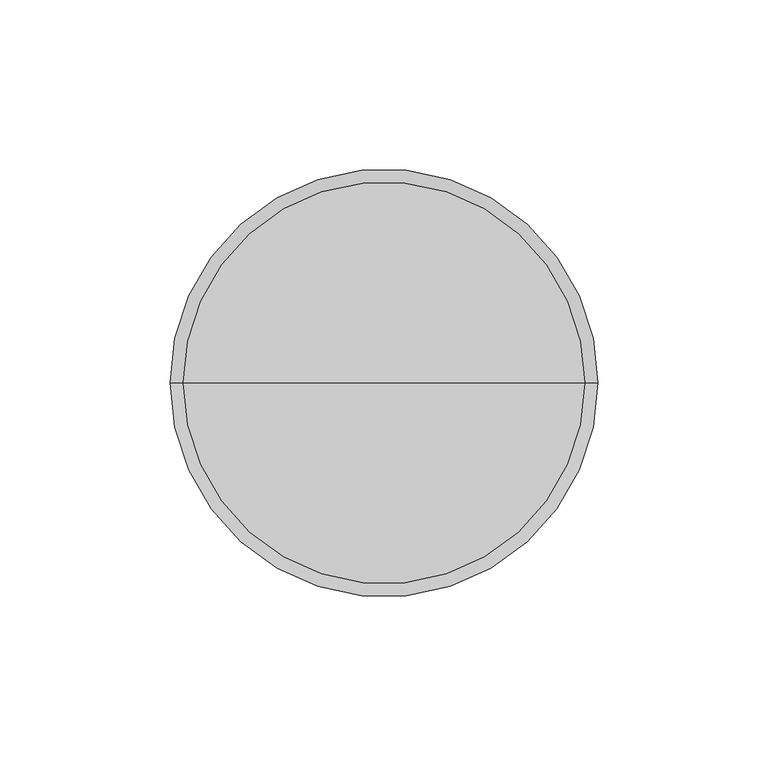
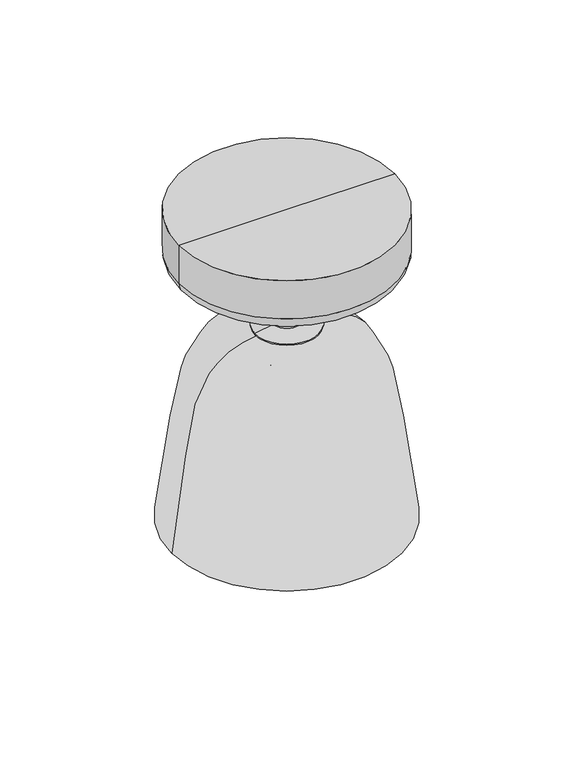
"""IFC4 building model written with IfcOpenShell, lengths in millimetres: light fixture geometry, Nuura - Asteea Ceiling - Ceiling Based : Nuura - Asteea Ceiling - Ceiling Based."""

import ifcopenshell
import ifcopenshell.guid

model = None  # the IFC model being written
_history = None  # IfcOwnerHistory: only IFC2X3 demands one
_inside = {}  # id of a spatial element -> (the spatial element, [elements in it])
_under = {}  # id of a project, library or spatial element -> (it, [spatial elements below it])
_declared = {}  # id of a project -> (the project, [libraries it declares])
_typed = {}  # id of a type object -> (the type object, [elements of that type])
_made_of = {}  # id of a material, layer set ... -> (it, [elements and type objects made of it])


def new_model(schema):
    """Start an empty IFC model of exactly this schema.

    Asked for "IFC4X3", IfcOpenShell would pick the latest addendum, in which some entities
    have other attributes; the version numbers below select the first issue.
    IFC2X3 requires an IfcOwnerHistory on every rooted entity: one is made here for all.
    """
    global model, _history
    if schema == "IFC4X3":
        model = ifcopenshell.file(schema_version=(4, 3, 0, 0))
    else:
        model = ifcopenshell.file(schema=schema)
    _inside.clear()
    _under.clear()
    _declared.clear()
    _typed.clear()
    _made_of.clear()
    _history = None
    if model.schema == "IFC2X3":
        org = make("IfcOrganization", Name="unknown")
        user = make(
            "IfcPersonAndOrganization",
            ThePerson=make("IfcPerson", FamilyName="unknown"),
            TheOrganization=org,
        )
        app = make(
            "IfcApplication",
            ApplicationDeveloper=org,
            Version="unknown",
            ApplicationFullName="unknown",
            ApplicationIdentifier="unknown",
        )
        _history = make(
            "IfcOwnerHistory",
            OwningUser=user,
            OwningApplication=app,
            ChangeAction="ADDED",
            CreationDate=0,
        )
    return model


def make(cls, **values):
    """One entity of the class cls with the attributes given. An attribute that is None is left unset."""
    return model.create_entity(
        cls, **{name: value for name, value in values.items() if value is not None}
    )


def rooted(cls, **values):
    """An entity with a GlobalId (a new one), such as an element, a storey or a relation."""
    return make(cls, GlobalId=ifcopenshell.guid.new(), OwnerHistory=_history, **values)


def si_unit(unit_type, name, prefix=None):
    """IfcSIUnit, for example si_unit("LENGTHUNIT", "METRE", prefix="MILLI")."""
    return make("IfcSIUnit", UnitType=unit_type, Prefix=prefix, Name=name)


def assignment(units):
    """IfcUnitAssignment: the units of a project."""
    return None if units is None else make("IfcUnitAssignment", Units=units)


def point(xyz):
    """IfcCartesianPoint."""
    return None if xyz is None else make("IfcCartesianPoint", Coordinates=xyz)


def direction(xyz):
    """IfcDirection."""
    return None if xyz is None else make("IfcDirection", DirectionRatios=xyz)


def frame(location, z_axis=None, x_axis=None):
    """IfcAxis2Placement3D, a coordinate frame: its origin and axes. An axis left out is left unset."""
    return make(
        "IfcAxis2Placement3D",
        Location=point(location),
        Axis=direction(z_axis),
        RefDirection=direction(x_axis),
    )


def origin():
    """The frame at (0, 0, 0) with its axes left unset."""
    return frame((0.0, 0.0, 0.0))


def place(relative_to, where):
    """IfcLocalPlacement: puts the frame where relative to a parent placement (None: the world)."""
    return make(
        "IfcLocalPlacement", PlacementRelTo=relative_to, RelativePlacement=where
    )


def context(
    kind, dimensions, precision=None, world=None, true_north=None, identifier=None
):
    """IfcGeometricRepresentationContext, for example the 3D "Model" context."""
    return make(
        "IfcGeometricRepresentationContext",
        ContextIdentifier=identifier,
        ContextType=kind,
        CoordinateSpaceDimension=dimensions,
        Precision=precision,
        WorldCoordinateSystem=world,
        TrueNorth=true_north,
    )


def project(units=None, contexts=None):
    """IfcProject with its units and contexts."""
    return rooted(
        "IfcProject",
        Name="project",
        RepresentationContexts=contexts,
        UnitsInContext=assignment(units),
    )


def spatial(cls, under=None, at=None, **own):
    """A site, building, storey or space (cls), placed at a placement, below another one or the project."""
    s = rooted(cls, ObjectPlacement=at, **own)
    if under is not None:
        _under.setdefault(under.id(), (under, []))[1].append(s)
    return s


def polyline(points):
    """IfcPolyline through the points."""
    return make("IfcPolyline", Points=[point(p) for p in points])


def circle_curve(where, radius):
    """IfcCircle in the frame where."""
    return make("IfcCircle", Position=where, Radius=radius)


def ellipse_curve(where, semi_axis1, semi_axis2):
    """IfcEllipse in the frame where."""
    return make(
        "IfcEllipse", Position=where, SemiAxis1=semi_axis1, SemiAxis2=semi_axis2
    )


def trimmed(basis, trim1, trim2, sense, master):
    """IfcTrimmedCurve: the piece of a basis curve between two trims."""
    return make(
        "IfcTrimmedCurve",
        BasisCurve=basis,
        Trim1=trim1,
        Trim2=trim2,
        SenseAgreement=sense,
        MasterRepresentation=master,
    )


def shape(context_of_items, identifier, shape_type, items):
    """IfcShapeRepresentation: the items that make up one representation, for example the "Body"."""
    return make(
        "IfcShapeRepresentation",
        ContextOfItems=context_of_items,
        RepresentationIdentifier=identifier,
        RepresentationType=shape_type,
        Items=items,
    )


def source(mapping_origin, context_of_items, identifier, shape_type, items):
    """IfcRepresentationMap: a shape defined once, which mapped items show again and again."""
    return make(
        "IfcRepresentationMap",
        MappingOrigin=mapping_origin,
        MappedRepresentation=shape(context_of_items, identifier, shape_type, items),
    )


def transform(
    local_origin,
    x_axis=None,
    y_axis=None,
    z_axis=None,
    scale=None,
    scale2=None,
    scale3=None,
    uniform=True,
):
    """IfcCartesianTransformationOperator3D, or its non-uniform kind. x_axis, y_axis, z_axis: its Axis1, 2, 3."""
    if uniform:
        return make(
            "IfcCartesianTransformationOperator3D",
            Axis1=direction(x_axis),
            Axis2=direction(y_axis),
            LocalOrigin=point(local_origin),
            Scale=scale,
            Axis3=direction(z_axis),
        )
    return make(
        "IfcCartesianTransformationOperator3DnonUniform",
        Axis1=direction(x_axis),
        Axis2=direction(y_axis),
        LocalOrigin=point(local_origin),
        Scale=scale,
        Axis3=direction(z_axis),
        Scale2=scale2,
        Scale3=scale3,
    )


def mapped(mapping_source, mapping_target):
    """IfcMappedItem: shows the shape of a source again, moved by a transform."""
    return make(
        "IfcMappedItem", MappingSource=mapping_source, MappingTarget=mapping_target
    )


def made_of(thing, what):
    """Note that an element or type object is made of a material, layer set ...; save() writes the relation."""
    if what is not None:
        _made_of.setdefault(what.id(), (what, []))[1].append(thing)
    return thing


def element(
    cls,
    number,
    at=None,
    inside=None,
    cuts=None,
    type_object=None,
    material=None,
    context=None,
    identifier="Body",
    shape_type=None,
    held_by="IfcProductDefinitionShape",
    body=None,
    shapes=None,
    **own,
):
    """One element of the class cls, such as IfcWall. Its Tag is "e" and its number.

    at: its placement. inside: the storey or other place that contains it. cuts: it is an
    opening in that element (IfcRelVoidsElement). A single representation is given by context,
    identifier, shape_type and body (its items); several are given by shapes. held_by: the class
    of the entity that holds the representations. save() writes the other relations.
    """
    e = rooted(cls, Tag="e%d" % number, ObjectPlacement=at, **own)
    if body is not None:
        shapes = [shape(context, identifier, shape_type, body)]
    if shapes is not None:
        e.Representation = make(held_by, Representations=shapes)
    if inside is not None:
        _inside.setdefault(inside.id(), (inside, []))[1].append(e)
    if cuts is not None:
        rooted(
            "IfcRelVoidsElement", RelatingBuildingElement=cuts, RelatedOpeningElement=e
        )
    if type_object is not None:
        _typed.setdefault(type_object.id(), (type_object, []))[1].append(e)
    return made_of(e, material)


def aggregate(whole, parts):
    """IfcRelAggregates: a whole, such as a stair, and the parts it consists of."""
    return rooted("IfcRelAggregates", RelatingObject=whole, RelatedObjects=parts)


def save(model, path):
    """Write the relations noted so far, then the file.

    IfcRelAggregates (storeys below a building ...), IfcRelContainedInSpatialStructure (elements
    in a storey), IfcRelDefinesByType, IfcRelAssociatesMaterial and IfcRelDeclares: one each for
    every whole, place, type object, material and project.
    """
    for whole, parts in _under.values():
        aggregate(whole, parts)
    for where, things in _inside.values():
        rooted(
            "IfcRelContainedInSpatialStructure",
            RelatedElements=things,
            RelatingStructure=where,
        )
    for kind, things in _typed.values():
        rooted("IfcRelDefinesByType", RelatedObjects=things, RelatingType=kind)
    for what, things in _made_of.values():
        rooted("IfcRelAssociatesMaterial", RelatedObjects=things, RelatingMaterial=what)
    for by, libraries in _declared.values():
        rooted("IfcRelDeclares", RelatingContext=by, RelatedDefinitions=libraries)
    model.write(path)


def plane_surface(at):
    """IfcPlane: the flat surface through the origin of the frame at, square to its z axis."""
    return make("IfcPlane", Position=at)


def cylinder_surface(at, radius):
    """IfcCylindricalSurface: all points at the distance radius from the z axis of the frame at."""
    return make("IfcCylindricalSurface", Position=at, Radius=radius)


def revolved_surface(curve, axis_point, axis_direction):
    """IfcSurfaceOfRevolution: the curve turned about the line through axis_point along axis_direction."""
    return make(
        "IfcSurfaceOfRevolution",
        SweptCurve=make("IfcArbitraryOpenProfileDef", ProfileType="CURVE", Curve=curve),
        AxisPosition=make("IfcAxis1Placement", Location=point(axis_point), Axis=direction(axis_direction)),
    )


def spline_curve(degree, points, multiplicities, knots, weights=None):
    """IfcBSplineCurveWithKnots; with weights, IfcRationalBSplineCurveWithKnots."""
    own = dict(
        Degree=degree,
        ControlPointsList=[point(p) for p in points],
        CurveForm="UNSPECIFIED",
        ClosedCurve=False,
        SelfIntersect=False,
        KnotMultiplicities=multiplicities,
        Knots=knots,
        KnotSpec="UNSPECIFIED",
    )
    if weights is None:
        return make("IfcBSplineCurveWithKnots", **own)
    return make("IfcRationalBSplineCurveWithKnots", WeightsData=weights, **own)


def advanced_brep(points, edges, surfaces, faces):
    """IfcAdvancedBrep: a solid bounded by faces that lie on surfaces and meet in shared edges.

    An edge is (start, end): straight between two places in points (the first is 0);
    or (start, end, curve); or (start, end, curve, False) where it runs against its curve.
    A face is (place in surfaces, loops), or (place, loops, False) where it looks against
    its surface's normal. A loop lists edges by number (the first is 1), with a minus sign
    where the edge is run from its end to its start. The first loop is the outer one.
    """
    corners = [point(p) for p in points]
    vertices = [make("IfcVertexPoint", VertexGeometry=c) for c in corners]
    made = []
    for start, end, *more in edges:
        made.append(
            make(
                "IfcEdgeCurve",
                EdgeStart=vertices[start],
                EdgeEnd=vertices[end],
                EdgeGeometry=more[0] if more else make("IfcPolyline", Points=[corners[start], corners[end]]),
                SameSense=more[1] if len(more) > 1 else True,
            )
        )
    hull = []
    for where, loops, *sense in faces:
        bounds = []
        for j, loop in enumerate(loops):
            ring = [make("IfcOrientedEdge", EdgeElement=made[abs(k) - 1], Orientation=k > 0) for k in loop]
            bounds.append(
                make(
                    "IfcFaceOuterBound" if j == 0 else "IfcFaceBound",
                    Bound=make("IfcEdgeLoop", EdgeList=ring),
                    Orientation=True,
                )
            )
        hull.append(make("IfcAdvancedFace", Bounds=bounds, FaceSurface=surfaces[where], SameSense=sense[0] if sense else True))
    return make("IfcAdvancedBrep", Outer=make("IfcClosedShell", CfsFaces=hull))


def light_fixture_1bf86b0a(model_context):
    return source(origin(), model_context, "Body", "AdvancedBrep", [
        advanced_brep(
        [(5.8953033, 0.0, 2256.8033811), (-5.8953033, 0.0, 2256.8033811), (-5.8953033, 0.0, 2353.3564688), (5.8953033, 0.0, 2353.3564688), (0.0, 0.0, 2256.8033811), (0.0, 0.0, 2353.3564688)],
        [
            (0, 1, circle_curve(frame((0.0, 0.0, 2256.8033811), z_axis=(0.0, 0.0, 1.0), x_axis=(-1.0, 0.0, 0.0)), 5.8953033)),
            (1, 2),
            (2, 3, circle_curve(frame((0.0, 0.0, 2353.3564688), z_axis=(0.0, 0.0, -1.0), x_axis=(-1.0, 0.0, 0.0)), 5.8953033)),
            (3, 0),
            (1, 0, circle_curve(frame((0.0, 0.0, 2256.8033811), z_axis=(0.0, 0.0, 1.0), x_axis=(-1.0, 0.0, 0.0)), 5.8953033)),
            (3, 2, circle_curve(frame((0.0, 0.0, 2353.3564688), z_axis=(0.0, 0.0, -1.0), x_axis=(-1.0, 0.0, 0.0)), 5.8953033)),
            (4, 1),
            (0, 4),
            (2, 5),
            (5, 3),
        ],
        [
            cylinder_surface(frame((0.0, 0.0, 2370.7966275), z_axis=(0.0, 0.0, -1.0), x_axis=(-1.0, 0.0, 0.0)), 5.8953033),
            plane_surface(frame((0.0, 0.0, 2256.8033811), z_axis=(0.0, 0.0, -1.0), x_axis=(-1.0, 0.0, 0.0))),
            plane_surface(frame((0.0, 0.0, 2353.3564688), z_axis=(0.0, 0.0, 1.0), x_axis=(-1.0, 0.0, 0.0))),
        ],
        [
            (0, [[1, 2, 3, 4]]),
            (0, [[5, -4, 6, -2]]),
            (1, [[7, -1, 8]]),
            (1, [[-8, -5, -7]]),
            (2, [[-3, 9, 10]]),
            (2, [[-6, -10, -9]]),
        ],
    ),
        advanced_brep(
        [(6.009507, 0.0, 2400.4), (-6.009507, 0.0, 2400.4), (0.0, 0.0, 2400.4), (6.009507, 0.0, 2377.3999985), (-6.009507, 0.0, 2377.3999985), (6.8203882, 0.0, 2377.3999985), (-6.8203882, 0.0, 2377.3999985), (7.3491479, 0.0, 2376.8712389), (-7.3491479, 0.0, 2376.8712389), (7.3491479, 0.0, 2374.802156), (-7.3491479, 0.0, 2374.802156), (17.4825438, 0.0, 2372.8798245), (-17.4825438, 0.0, 2372.8798245), (17.2117822, 0.0, 2371.897506), (-17.2117822, 0.0, 2371.897506), (0.0, 0.0, 2371.897506)],
        [
            (0, 1, circle_curve(frame((0.0, 0.0, 2400.4), z_axis=(0.0, 0.0, 1.0), x_axis=(-1.0, 0.0, 0.0)), 6.009507)),
            (1, 2),
            (2, 0),
            (1, 0, circle_curve(frame((0.0, 0.0, 2400.4), z_axis=(0.0, 0.0, 1.0), x_axis=(-1.0, 0.0, 0.0)), 6.009507)),
            (3, 4, circle_curve(frame((0.0, 0.0, 2377.3999985), z_axis=(0.0, 0.0, 1.0), x_axis=(-1.0, 0.0, 0.0)), 6.009507)),
            (4, 1),
            (0, 3),
            (4, 3, circle_curve(frame((0.0, 0.0, 2377.3999985), z_axis=(0.0, 0.0, 1.0), x_axis=(-1.0, 0.0, 0.0)), 6.009507)),
            (5, 6, circle_curve(frame((0.0, 0.0, 2377.3999985), z_axis=(0.0, 0.0, 1.0), x_axis=(-1.0, 0.0, 0.0)), 6.8203882)),
            (6, 4),
            (3, 5),
            (6, 5, circle_curve(frame((0.0, 0.0, 2377.3999985), z_axis=(0.0, 0.0, 1.0), x_axis=(-1.0, 0.0, 0.0)), 6.8203882)),
            (7, 8, circle_curve(frame((0.0, 0.0, 2376.8712389), z_axis=(0.0, 0.0, 1.0), x_axis=(-1.0, 0.0, 0.0)), 7.3491479)),
            (8, 6, circle_curve(frame((-6.8203882, 0.0, 2376.8712389), z_axis=(0.0, 1.0, 0.0), x_axis=(1.0, 0.0, 0.0)), 0.5287596)),
            (5, 7, circle_curve(frame((6.8203882, 0.0, 2376.8712389), z_axis=(0.0, 1.0, 0.0), x_axis=(-1.0, 0.0, 0.0)), 0.5287596)),
            (8, 7, circle_curve(frame((0.0, 0.0, 2376.8712389), z_axis=(0.0, 0.0, 1.0), x_axis=(-1.0, 0.0, 0.0)), 7.3491479)),
            (9, 10, circle_curve(frame((0.0, 0.0, 2374.802156), z_axis=(0.0, 0.0, 1.0), x_axis=(-1.0, 0.0, 0.0)), 7.3491479)),
            (10, 8),
            (7, 9),
            (10, 9, circle_curve(frame((0.0, 0.0, 2374.802156), z_axis=(0.0, 0.0, 1.0), x_axis=(-1.0, 0.0, 0.0)), 7.3491479)),
            (11, 12, circle_curve(frame((0.0, 0.0, 2372.8798245), z_axis=(0.0, 0.0, 1.0), x_axis=(-1.0, 0.0, 0.0)), 17.4825438)),
            (12, 10, circle_curve(frame((-0.6458892, 0.0, 2311.796732), z_axis=(0.0, 1.0, 0.0), x_axis=(1.0, 0.0, 0.0)), 63.3610063)),
            (9, 11, circle_curve(frame((0.6458892, 0.0, 2311.796732), z_axis=(0.0, 1.0, 0.0), x_axis=(-1.0, 0.0, 0.0)), 63.3610063)),
            (12, 11, circle_curve(frame((0.0, 0.0, 2372.8798245), z_axis=(0.0, 0.0, 1.0), x_axis=(-1.0, 0.0, 0.0)), 17.4825438)),
            (13, 14, circle_curve(frame((0.0, 0.0, 2371.897506), z_axis=(0.0, 0.0, 1.0), x_axis=(-1.0, 0.0, 0.0)), 17.2117822)),
            (14, 12),
            (11, 13),
            (14, 13, circle_curve(frame((0.0, 0.0, 2371.897506), z_axis=(0.0, 0.0, 1.0), x_axis=(-1.0, 0.0, 0.0)), 17.2117822)),
            (15, 14),
            (13, 15),
        ],
        [
            plane_surface(frame((0.0, 0.0, 2400.4), z_axis=(0.0, 0.0, 1.0), x_axis=(-1.0, 0.0, 0.0))),
            cylinder_surface(frame((0.0, 0.0, 2592.6833818), z_axis=(0.0, 0.0, -1.0), x_axis=(-1.0, 0.0, 0.0)), 6.009507),
            plane_surface(frame((0.0, 0.0, 2377.3999985), z_axis=(0.0, 0.0, 1.0), x_axis=(-1.0, 0.0, 0.0))),
            revolved_surface(trimmed(ellipse_curve(frame((-6.8203882, 0.0, 2376.8712389), z_axis=(0.0, -1.0, 0.0), x_axis=(1.0, 0.0, 0.0)), 0.5287596, 0.5287596), [point((-6.8203882, 0.0, 2377.3999985))], [point((-7.3491479, 0.0, 2376.8712389))], True, "CARTESIAN"), (0.0, 0.0, 2592.6833818), (0.0, 0.0, -1.0)),
            cylinder_surface(frame((0.0, 0.0, 2592.6833818), z_axis=(0.0, 0.0, -1.0), x_axis=(-1.0, 0.0, 0.0)), 7.3491479),
            revolved_surface(trimmed(ellipse_curve(frame((-0.6458892, 0.0, 2311.796732), z_axis=(0.0, -1.0, 0.0), x_axis=(1.0, 0.0, 0.0)), 63.3610063, 63.3610063), [point((-7.3491479, 0.0, 2374.802156))], [point((-17.4825438, 0.0, 2372.8798245))], True, "CARTESIAN"), (0.0, 0.0, 2592.6833818), (0.0, 0.0, -1.0)),
            revolved_surface(polyline([(-17.4825438, 0.0, 2372.8798245), (-17.2117822, 0.0, 2371.897506)]), (0.0, 0.0, 2592.6833818), (0.0, 0.0, -1.0)),
            plane_surface(frame((0.0, 0.0, 2371.897506), z_axis=(0.0, 0.0, -1.0), x_axis=(-1.0, 0.0, 0.0))),
        ],
        [
            (0, [[1, 2, 3]]),
            (0, [[4, -3, -2]]),
            (1, [[5, 6, -1, 7]]),
            (1, [[8, -7, -4, -6]]),
            (2, [[9, 10, -5, 11]]),
            (2, [[12, -11, -8, -10]]),
            (3, [[13, 14, -9, 15]]),
            (3, [[16, -15, -12, -14]]),
            (4, [[17, 18, -13, 19]]),
            (4, [[20, -19, -16, -18]]),
            (5, [[21, 22, -17, 23]]),
            (5, [[24, -23, -20, -22]]),
            (6, [[25, 26, -21, 27]]),
            (6, [[28, -27, -24, -26]]),
            (7, [[29, -25, 30]]),
            (7, [[-30, -28, -29]]),
        ],
    ),
        advanced_brep(
        [(17.5, 0.0, 2364.3564688), (-17.5, 0.0, 2364.3564688), (-17.5, 0.0, 2366.8564688), (17.5, 0.0, 2366.8564688), (6.5, 0.0, 2353.3564688), (-6.5, 0.0, 2353.3564688), (3.9999999, 0.0, 2353.3564688), (-3.9999999, 0.0, 2353.3564688), (3.9999999, 0.0, 2343.3033811), (-3.9999999, 0.0, 2343.3033811), (-1e-07, 0.0, 2343.3033811), (-1e-07, 0.0, 2366.8564688)],
        [
            (0, 1, circle_curve(frame((0.0, 0.0, 2364.3564688), z_axis=(0.0, 0.0, 1.0), x_axis=(-1.0, 0.0, 0.0)), 17.5)),
            (1, 2),
            (2, 3, circle_curve(frame((0.0, 0.0, 2366.8564688), z_axis=(0.0, 0.0, -1.0), x_axis=(-1.0, 0.0, 0.0)), 17.5)),
            (3, 0),
            (1, 0, circle_curve(frame((0.0, 0.0, 2364.3564688), z_axis=(0.0, 0.0, 1.0), x_axis=(-1.0, 0.0, 0.0)), 17.5)),
            (3, 2, circle_curve(frame((0.0, 0.0, 2366.8564688), z_axis=(0.0, 0.0, -1.0), x_axis=(-1.0, 0.0, 0.0)), 17.5)),
            (4, 5, circle_curve(frame((0.0, 0.0, 2353.3564688), z_axis=(0.0, 0.0, 1.0), x_axis=(-1.0, 0.0, 0.0)), 6.5)),
            (5, 1, circle_curve(frame((-6.5, 0.0, 2364.3564688), z_axis=(0.0, 1.0, 0.0), x_axis=(1.0, 0.0, 0.0)), 11.0)),
            (0, 4, circle_curve(frame((6.5, 0.0, 2364.3564688), z_axis=(0.0, 1.0, 0.0), x_axis=(-1.0, 0.0, 0.0)), 11.0)),
            (5, 4, circle_curve(frame((0.0, 0.0, 2353.3564688), z_axis=(0.0, 0.0, 1.0), x_axis=(-1.0, 0.0, 0.0)), 6.5)),
            (6, 7, circle_curve(frame((0.0, 0.0, 2353.3564688), z_axis=(0.0, 0.0, 1.0), x_axis=(-1.0, 0.0, 0.0)), 3.9999999)),
            (7, 5),
            (4, 6),
            (7, 6, circle_curve(frame((0.0, 0.0, 2353.3564688), z_axis=(0.0, 0.0, 1.0), x_axis=(-1.0, 0.0, 0.0)), 3.9999999)),
            (8, 9, circle_curve(frame((0.0, 0.0, 2343.3033811), z_axis=(0.0, 0.0, 1.0), x_axis=(-1.0, 0.0, 0.0)), 3.9999999)),
            (9, 7),
            (6, 8),
            (9, 8, circle_curve(frame((0.0, 0.0, 2343.3033811), z_axis=(0.0, 0.0, 1.0), x_axis=(-1.0, 0.0, 0.0)), 3.9999999)),
            (10, 9),
            (8, 10),
            (2, 11),
            (11, 3),
        ],
        [
            cylinder_surface(frame((0.0, 0.0, 2592.6833818), z_axis=(0.0, 0.0, -1.0), x_axis=(-1.0, 0.0, 0.0)), 17.5),
            revolved_surface(trimmed(ellipse_curve(frame((-6.5, 0.0, 2364.3564688), z_axis=(0.0, -1.0, 0.0), x_axis=(1.0, 0.0, 0.0)), 11.0, 11.0), [point((-17.5, 0.0, 2364.3564688))], [point((-6.5, 0.0, 2353.3564688))], True, "CARTESIAN"), (0.0, 0.0, 2592.6833818), (0.0, 0.0, -1.0)),
            plane_surface(frame((0.0, 0.0, 2353.3564688), z_axis=(0.0, 0.0, -1.0), x_axis=(-1.0, 0.0, 0.0))),
            cylinder_surface(frame((0.0, 0.0, 2592.6833818), z_axis=(0.0, 0.0, -1.0), x_axis=(-1.0, 0.0, 0.0)), 3.9999999),
            plane_surface(frame((0.0, 0.0, 2343.3033811), z_axis=(0.0, 0.0, -1.0), x_axis=(-1.0, 0.0, 0.0))),
            plane_surface(frame((0.0, 0.0, 2366.8564688), z_axis=(0.0, 0.0, 1.0), x_axis=(-1.0, 0.0, 0.0))),
        ],
        [
            (0, [[1, 2, 3, 4]]),
            (0, [[5, -4, 6, -2]]),
            (1, [[7, 8, -1, 9]]),
            (1, [[10, -9, -5, -8]]),
            (2, [[11, 12, -7, 13]]),
            (2, [[14, -13, -10, -12]]),
            (3, [[15, 16, -11, 17]]),
            (3, [[18, -17, -14, -16]]),
            (4, [[19, -15, 20]]),
            (4, [[-20, -18, -19]]),
            (5, [[-3, 21, 22]]),
            (5, [[-6, -22, -21]]),
        ],
    ),
        advanced_brep(
        [(2.8650938, 0.0, 2272.7707416), (-2.8650938, 0.0, 2272.7707416), (0.0, 0.0, 2272.7707416), (4.8499999, 0.0, 2271.8033811), (-4.8499999, 0.0, 2271.8033811), (4.8499999, 0.0, 2266.8033811), (-4.8499999, 0.0, 2266.8033811), (4.8499999, 0.0, 2256.8033811), (-4.8499999, 0.0, 2256.8033811), (22.4999999, 0.0, 2256.8033811), (-22.4999999, 0.0, 2256.8033811), (22.4999999, 0.0, 2253.6923206), (-22.4999999, 0.0, 2253.6923206), (22.1540938, 0.0, 2251.8649153), (-22.1540938, 0.0, 2251.8649153), (0.0, 0.0, 2236.7629505)],
        [
            (0, 1, circle_curve(frame((0.0, 0.0, 2272.7707416), z_axis=(0.0, 0.0, 1.0), x_axis=(-1.0, 0.0, 0.0)), 2.8650938)),
            (1, 2),
            (2, 0),
            (1, 0, circle_curve(frame((0.0, 0.0, 2272.7707416), z_axis=(0.0, 0.0, 1.0), x_axis=(-1.0, 0.0, 0.0)), 2.8650938)),
            (3, 4, circle_curve(frame((0.0, 0.0, 2271.8033811), z_axis=(0.0, 0.0, 1.0), x_axis=(-1.0, 0.0, 0.0)), 4.8499999)),
            (4, 1),
            (0, 3),
            (4, 3, circle_curve(frame((0.0, 0.0, 2271.8033811), z_axis=(0.0, 0.0, 1.0), x_axis=(-1.0, 0.0, 0.0)), 4.8499999)),
            (5, 6, circle_curve(frame((0.0, 0.0, 2266.8033811), z_axis=(0.0, 0.0, 1.0), x_axis=(-1.0, 0.0, 0.0)), 4.8499999)),
            (6, 4),
            (3, 5),
            (6, 5, circle_curve(frame((0.0, 0.0, 2266.8033811), z_axis=(0.0, 0.0, 1.0), x_axis=(-1.0, 0.0, 0.0)), 4.8499999)),
            (7, 8, circle_curve(frame((0.0, 0.0, 2256.8033811), z_axis=(0.0, 0.0, 1.0), x_axis=(-1.0, 0.0, 0.0)), 4.8499999)),
            (8, 6),
            (5, 7),
            (8, 7, circle_curve(frame((0.0, 0.0, 2256.8033811), z_axis=(0.0, 0.0, 1.0), x_axis=(-1.0, 0.0, 0.0)), 4.8499999)),
            (9, 10, circle_curve(frame((0.0, 0.0, 2256.8033811), z_axis=(0.0, 0.0, 1.0), x_axis=(-1.0, 0.0, 0.0)), 22.4999999)),
            (10, 8),
            (7, 9),
            (10, 9, circle_curve(frame((0.0, 0.0, 2256.8033811), z_axis=(0.0, 0.0, 1.0), x_axis=(-1.0, 0.0, 0.0)), 22.4999999)),
            (11, 12, circle_curve(frame((0.0, 0.0, 2253.6923206), z_axis=(0.0, 0.0, 1.0), x_axis=(-1.0, 0.0, 0.0)), 22.4999999)),
            (12, 10),
            (9, 11),
            (12, 11, circle_curve(frame((0.0, 0.0, 2253.6923206), z_axis=(0.0, 0.0, 1.0), x_axis=(-1.0, 0.0, 0.0)), 22.4999999)),
            (13, 14, circle_curve(frame((0.0, 0.0, 2251.8649153), z_axis=(0.0, 0.0, 1.0), x_axis=(-1.0, 0.0, 0.0)), 22.1540938)),
            (14, 12, circle_curve(frame((-17.4999999, 0.0, 2253.6923206), z_axis=(0.0, 1.0, 0.0), x_axis=(1.0, 0.0, 0.0)), 5.0)),
            (11, 13, circle_curve(frame((17.4999999, 0.0, 2253.6923206), z_axis=(0.0, 1.0, 0.0), x_axis=(-1.0, 0.0, 0.0)), 5.0)),
            (14, 13, circle_curve(frame((0.0, 0.0, 2251.8649153), z_axis=(0.0, 0.0, 1.0), x_axis=(-1.0, 0.0, 0.0)), 22.1540938)),
            (15, 14, circle_curve(frame((1e-07, 0.0, 2260.5636025), z_axis=(0.0, 1.0, 0.0), x_axis=(1.0, 0.0, 0.0)), 23.800652)),
            (13, 15, circle_curve(frame((-1e-07, 0.0, 2260.5636025), z_axis=(0.0, 1.0, 0.0), x_axis=(-1.0, 0.0, 0.0)), 23.800652)),
        ],
        [
            plane_surface(frame((0.0, 0.0, 2272.7707416), z_axis=(0.0, 0.0, 1.0), x_axis=(-1.0, 0.0, 0.0))),
            revolved_surface(polyline([(-2.8650938, 0.0, 2272.7707416), (-4.8499999, 0.0, 2271.8033811)]), (0.0, 0.0, 2592.6833818), (0.0, 0.0, -1.0)),
            cylinder_surface(frame((0.0, 0.0, 2592.6833818), z_axis=(0.0, 0.0, -1.0), x_axis=(-1.0, 0.0, 0.0)), 4.8499999),
            plane_surface(frame((0.0, 0.0, 2256.8033811), z_axis=(0.0, 0.0, 1.0), x_axis=(-1.0, 0.0, 0.0))),
            cylinder_surface(frame((0.0, 0.0, 2592.6833818), z_axis=(0.0, 0.0, -1.0), x_axis=(-1.0, 0.0, 0.0)), 22.4999999),
            revolved_surface(trimmed(ellipse_curve(frame((-17.4999999, 0.0, 2253.6923206), z_axis=(0.0, -1.0, 0.0), x_axis=(1.0, 0.0, 0.0)), 5.0, 5.0), [point((-22.4999999, 0.0, 2253.6923206))], [point((-22.1540938, 0.0, 2251.8649153))], True, "CARTESIAN"), (0.0, 0.0, 2592.6833818), (0.0, 0.0, -1.0)),
            revolved_surface(trimmed(ellipse_curve(frame((1e-07, 0.0, 2260.5636025), z_axis=(0.0, -1.0, 0.0), x_axis=(1.0, 0.0, 0.0)), 23.800652, 23.800652), [point((-22.1540938, 0.0, 2251.8649153))], [point((0.0, 0.0, 2236.7629505))], True, "CARTESIAN"), (0.0, 0.0, 2592.6833818), (0.0, 0.0, -1.0)),
        ],
        [
            (0, [[1, 2, 3]]),
            (0, [[4, -3, -2]]),
            (1, [[5, 6, -1, 7]]),
            (1, [[8, -7, -4, -6]]),
            (2, [[9, 10, -5, 11]]),
            (2, [[12, -11, -8, -10]]),
            (2, [[13, 14, -9, 15]]),
            (2, [[16, -15, -12, -14]]),
            (3, [[17, 18, -13, 19]]),
            (3, [[20, -19, -16, -18]]),
            (4, [[21, 22, -17, 23]]),
            (4, [[24, -23, -20, -22]]),
            (5, [[25, 26, -21, 27]]),
            (5, [[28, -27, -24, -26]]),
            (6, [[29, -25, 30]]),
            (6, [[-30, -28, -29]]),
        ],
    ),
        advanced_brep(
        [(60.3094195, 0.0, 2261.9476234), (-60.3094195, 0.0, 2261.9476234), (-62.8346577, 0.0, 2261.9476234), (62.8346577, 0.0, 2261.9476234), (0.0, 0.0, 2371.897506), (0.0, 0.0, 2369.397506)],
        [
            (0, 1, circle_curve(frame((0.0, 0.0, 2261.9476234), z_axis=(0.0, 0.0, 1.0), x_axis=(-1.0, 0.0, 0.0)), 60.3094195)),
            (1, 2),
            (2, 3, circle_curve(frame((0.0, 0.0, 2261.9476234), z_axis=(0.0, 0.0, -1.0), x_axis=(-1.0, 0.0, 0.0)), 62.8346577)),
            (3, 0),
            (1, 0, circle_curve(frame((0.0, 0.0, 2261.9476234), z_axis=(0.0, 0.0, 1.0), x_axis=(-1.0, 0.0, 0.0)), 60.3094195)),
            (3, 2, circle_curve(frame((0.0, 0.0, 2261.9476234), z_axis=(0.0, 0.0, -1.0), x_axis=(-1.0, 0.0, 0.0)), 62.8346577)),
            (2, 4, spline_curve(3, [(-62.8346577, 0.0, 2261.9476234), (-52.865659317, 0.0, 2331.929280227), (-53.062016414, 0.0, 2346.331231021), (-36.007269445, 0.0, 2366.31365429), (-24.976463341, 0.0, 2373.206466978), (0.0, 0.0, 2371.897506)], [4, 2, 4], [0.0, 0.13955105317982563, 0.22914869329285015])),
            (4, 3, spline_curve(3, [(0.0, 0.0, 2371.897506), (24.976463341, 0.0, 2373.206466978), (36.007269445, 0.0, 2366.31365429), (53.062016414, 0.0, 2346.331231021), (52.865659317, 0.0, 2331.929280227), (62.8346577, 0.0, 2261.9476234)], [4, 2, 4], [0.0, 0.08959764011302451, 0.22914869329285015])),
            (5, 1, spline_curve(3, [(0.0, 0.0, 2369.397506), (-24.311092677, 0.0, 2370.483314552), (-34.991874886, 0.0, 2363.693914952), (-51.435343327, 0.0, 2344.123481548), (-51.136024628, 0.0, 2330.112347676), (-60.3094195, 0.0, 2261.9476234)], [4, 2, 4], [0.0, 0.08959764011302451, 0.22914869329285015])),
            (0, 5, spline_curve(3, [(60.3094195, 0.0, 2261.9476234), (51.136024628, 0.0, 2330.112347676), (51.435343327, 0.0, 2344.123481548), (34.991874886, 0.0, 2363.693914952), (24.311092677, 0.0, 2370.483314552), (0.0, 0.0, 2369.397506)], [4, 2, 4], [0.0, 0.13955105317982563, 0.22914869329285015])),
        ],
        [
            plane_surface(frame((0.0, 0.0, 2261.9476234), z_axis=(0.0, 0.0, -1.0), x_axis=(-1.0, 0.0, 0.0))),
            revolved_surface(spline_curve(3, [(0.0, 0.0, 2371.897506), (-24.976463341, 0.0, 2373.206466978), (-36.007269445, 0.0, 2366.31365429), (-53.062016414, 0.0, 2346.331231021), (-52.865659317, 0.0, 2331.929280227), (-62.8346577, 0.0, 2261.9476234)], [4, 2, 4], [0.0, 0.08959764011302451, 0.22914869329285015]), (0.0, 0.0, 2530.0408202), (0.0, 0.0, -1.0)),
            revolved_surface(spline_curve(3, [(-60.3094195, 0.0, 2261.9476234), (-51.136024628, 0.0, 2330.112347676), (-51.435343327, 0.0, 2344.123481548), (-34.991874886, 0.0, 2363.693914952), (-24.311092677, 0.0, 2370.483314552), (0.0, 0.0, 2369.397506)], [4, 2, 4], [0.0, 0.13955105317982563, 0.22914869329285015]), (0.0, 0.0, 2530.0408202), (0.0, 0.0, -1.0)),
        ],
        [
            (0, [[1, 2, 3, 4]]),
            (0, [[5, -4, 6, -2]]),
            (1, [[-3, 7, 8]]),
            (1, [[-6, -8, -7]]),
            (2, [[9, -1, 10]]),
            (2, [[-10, -5, -9]]),
        ],
    ),
        advanced_brep(
        [(2.8650938, 0.0, 2272.7707416), (-2.8650938, 0.0, 2272.7707416), (-2.8650938, 0.0, 2343.3033811), (2.8650938, 0.0, 2343.3033811), (0.0, 0.0, 2272.7707416), (0.0, 0.0, 2343.3033811)],
        [
            (0, 1, circle_curve(frame((0.0, 0.0, 2272.7707416), z_axis=(0.0, 0.0, 1.0), x_axis=(-1.0, 0.0, 0.0)), 2.8650938)),
            (1, 2),
            (2, 3, circle_curve(frame((0.0, 0.0, 2343.3033811), z_axis=(0.0, 0.0, -1.0), x_axis=(-1.0, 0.0, 0.0)), 2.8650938)),
            (3, 0),
            (1, 0, circle_curve(frame((0.0, 0.0, 2272.7707416), z_axis=(0.0, 0.0, 1.0), x_axis=(-1.0, 0.0, 0.0)), 2.8650938)),
            (3, 2, circle_curve(frame((0.0, 0.0, 2343.3033811), z_axis=(0.0, 0.0, -1.0), x_axis=(-1.0, 0.0, 0.0)), 2.8650938)),
            (4, 1),
            (0, 4),
            (2, 5),
            (5, 3),
        ],
        [
            cylinder_surface(frame((0.0, 0.0, 2370.7966275), z_axis=(0.0, 0.0, -1.0), x_axis=(-1.0, 0.0, 0.0)), 2.8650938),
            plane_surface(frame((0.0, 0.0, 2272.7707416), z_axis=(0.0, 0.0, -1.0), x_axis=(-1.0, 0.0, 0.0))),
            plane_surface(frame((0.0, 0.0, 2343.3033811), z_axis=(0.0, 0.0, 1.0), x_axis=(-1.0, 0.0, 0.0))),
        ],
        [
            (0, [[1, 2, 3, 4]]),
            (0, [[5, -4, 6, -2]]),
            (1, [[7, -1, 8]]),
            (1, [[-8, -5, -7]]),
            (2, [[-3, 9, 10]]),
            (2, [[-6, -10, -9]]),
        ],
    ),
        advanced_brep(
        [(7.0, 0.0, 2408.4), (-7.0, 0.0, 2408.4), (-51.0, 0.0, 2408.4), (51.0, 0.0, 2408.4), (7.0, 0.0, 2401.4), (-7.0, 0.0, 2401.4), (6.0, 0.0, 2400.4), (-6.0, 0.0, 2400.4), (0.0, 0.0, 2400.4), (59.0, 0.0, 2438.4), (-59.0, 0.0, 2438.4), (0.0, 0.0, 2438.4), (59.0, 0.0, 2416.4), (-59.0, 0.0, 2416.4)],
        [
            (0, 1, circle_curve(frame((0.0, 0.0, 2408.4), z_axis=(0.0, 0.0, 1.0), x_axis=(-1.0, 0.0, 0.0)), 7.0)),
            (1, 2),
            (2, 3, circle_curve(frame((0.0, 0.0, 2408.4), z_axis=(0.0, 0.0, -1.0), x_axis=(-1.0, 0.0, 0.0)), 51.0)),
            (3, 0),
            (1, 0, circle_curve(frame((0.0, 0.0, 2408.4), z_axis=(0.0, 0.0, 1.0), x_axis=(-1.0, 0.0, 0.0)), 7.0)),
            (3, 2, circle_curve(frame((0.0, 0.0, 2408.4), z_axis=(0.0, 0.0, -1.0), x_axis=(-1.0, 0.0, 0.0)), 51.0)),
            (4, 5, circle_curve(frame((0.0, 0.0, 2401.4), z_axis=(0.0, 0.0, 1.0), x_axis=(-1.0, 0.0, 0.0)), 7.0)),
            (5, 1),
            (0, 4),
            (5, 4, circle_curve(frame((0.0, 0.0, 2401.4), z_axis=(0.0, 0.0, 1.0), x_axis=(-1.0, 0.0, 0.0)), 7.0)),
            (6, 7, circle_curve(frame((0.0, 0.0, 2400.4), z_axis=(0.0, 0.0, 1.0), x_axis=(-1.0, 0.0, 0.0)), 6.0)),
            (7, 5, circle_curve(frame((-6.0, 0.0, 2401.4), z_axis=(0.0, 1.0, 0.0), x_axis=(1.0, 0.0, 0.0)), 1.0)),
            (4, 6, circle_curve(frame((6.0, 0.0, 2401.4), z_axis=(0.0, 1.0, 0.0), x_axis=(-1.0, 0.0, 0.0)), 1.0)),
            (7, 6, circle_curve(frame((0.0, 0.0, 2400.4), z_axis=(0.0, 0.0, 1.0), x_axis=(-1.0, 0.0, 0.0)), 6.0)),
            (8, 7),
            (6, 8),
            (9, 10, circle_curve(frame((0.0, 0.0, 2438.4), z_axis=(0.0, 0.0, 1.0), x_axis=(-1.0, 0.0, 0.0)), 59.0)),
            (10, 11),
            (11, 9),
            (10, 9, circle_curve(frame((0.0, 0.0, 2438.4), z_axis=(0.0, 0.0, 1.0), x_axis=(-1.0, 0.0, 0.0)), 59.0)),
            (12, 13, circle_curve(frame((0.0, 0.0, 2416.4), z_axis=(0.0, 0.0, 1.0), x_axis=(-1.0, 0.0, 0.0)), 59.0)),
            (13, 10),
            (9, 12),
            (13, 12, circle_curve(frame((0.0, 0.0, 2416.4), z_axis=(0.0, 0.0, 1.0), x_axis=(-1.0, 0.0, 0.0)), 59.0)),
            (2, 13, circle_curve(frame((-51.0, 0.0, 2416.4), z_axis=(0.0, 1.0, 0.0), x_axis=(1.0, 0.0, 0.0)), 8.0)),
            (12, 3, circle_curve(frame((51.0, 0.0, 2416.4), z_axis=(0.0, 1.0, 0.0), x_axis=(-1.0, 0.0, 0.0)), 8.0)),
        ],
        [
            plane_surface(frame((0.0, 0.0, 2408.4), z_axis=(0.0, 0.0, -1.0), x_axis=(-1.0, 0.0, 0.0))),
            cylinder_surface(frame((0.0, 0.0, 2449.5281977), z_axis=(0.0, 0.0, -1.0), x_axis=(-1.0, 0.0, 0.0)), 7.0),
            revolved_surface(trimmed(ellipse_curve(frame((-6.0, 0.0, 2401.4), z_axis=(0.0, -1.0, 0.0), x_axis=(1.0, 0.0, 0.0)), 1.0, 1.0), [point((-7.0, 0.0, 2401.4))], [point((-6.0, 0.0, 2400.4))], True, "CARTESIAN"), (0.0, 0.0, 2449.5281977), (0.0, 0.0, -1.0)),
            plane_surface(frame((0.0, 0.0, 2400.4), z_axis=(0.0, 0.0, -1.0), x_axis=(-1.0, 0.0, 0.0))),
            plane_surface(frame((0.0, 0.0, 2438.4), z_axis=(0.0, 0.0, 1.0), x_axis=(-1.0, 0.0, 0.0))),
            cylinder_surface(frame((0.0, 0.0, 2449.5281977), z_axis=(0.0, 0.0, -1.0), x_axis=(-1.0, 0.0, 0.0)), 59.0),
            revolved_surface(trimmed(ellipse_curve(frame((-51.0, 0.0, 2416.4), z_axis=(0.0, -1.0, 0.0), x_axis=(1.0, 0.0, 0.0)), 8.0, 8.0), [point((-59.0, 0.0, 2416.4))], [point((-51.0, 0.0, 2408.4))], True, "CARTESIAN"), (0.0, 0.0, 2449.5281977), (0.0, 0.0, -1.0)),
        ],
        [
            (0, [[1, 2, 3, 4]]),
            (0, [[5, -4, 6, -2]]),
            (1, [[7, 8, -1, 9]]),
            (1, [[10, -9, -5, -8]]),
            (2, [[11, 12, -7, 13]]),
            (2, [[14, -13, -10, -12]]),
            (3, [[15, -11, 16]]),
            (3, [[-16, -14, -15]]),
            (4, [[17, 18, 19]]),
            (4, [[20, -19, -18]]),
            (5, [[21, 22, -17, 23]]),
            (5, [[24, -23, -20, -22]]),
            (6, [[-3, 25, -21, 26]]),
            (6, [[-6, -26, -24, -25]]),
        ],
    ),
    ])


if __name__ == "__main__":
    model = new_model("IFC4")
    model_context = context("Model", 3, world=origin())
    ifc_project = project(units=[si_unit("LENGTHUNIT", "METRE", prefix="MILLI")], contexts=[model_context])
    site = spatial("IfcSite", under=ifc_project)
    building = spatial("IfcBuilding", under=site)
    placement = place(None, origin())
    light_fixture_shape = light_fixture_1bf86b0a(model_context)
    element("IfcLightFixture", 1, ObjectType="Nuura - Asteea Ceiling - Ceiling Based : Nuura - Asteea Ceiling - Ceiling Based", at=placement, inside=building, context=model_context, shape_type="MappedRepresentation", body=[
        mapped(light_fixture_shape, transform((0.0, 0.0, 0.0), x_axis=(1.0, 0.0, 0.0), y_axis=(0.0, 1.0, 0.0), z_axis=(0.0, 0.0, 1.0))),
    ])
    save(model, "model.ifc")
